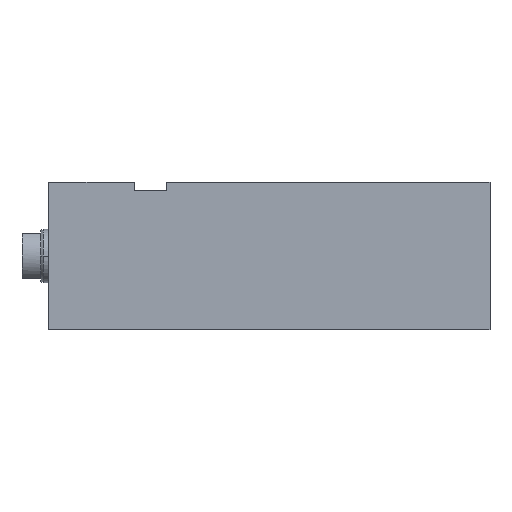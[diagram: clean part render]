
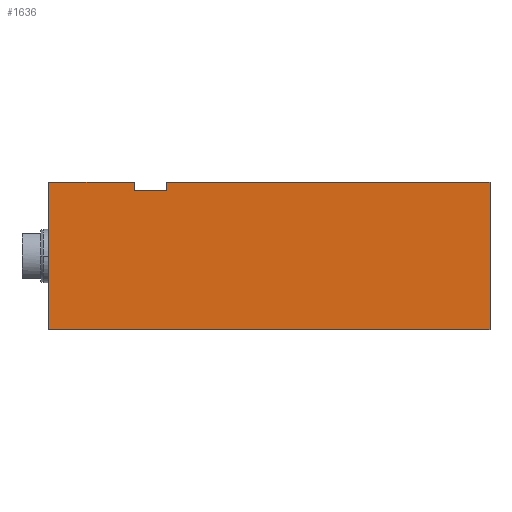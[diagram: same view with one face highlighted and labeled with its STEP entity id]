
A CAD part, left-side view. The second image highlights one B-rep face of the part: STEP entity #1636.
In plain terms, the highlighted planar face has unit normal (-1, 0, 0).
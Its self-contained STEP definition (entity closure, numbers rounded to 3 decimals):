
#4 = CARTESIAN_POINT ( 'NONE',  ( -37.5, 121., 27.5 ) ) ;
#313 = CARTESIAN_POINT ( 'NONE',  ( -37.5, 0., 27.5 ) ) ;
#333 = ORIENTED_EDGE ( 'NONE', *, *, #2207, .F. ) ;
#360 = VECTOR ( 'NONE', #1416, 1000. ) ;
#487 = CARTESIAN_POINT ( 'NONE',  ( -37.5, 0., -27.5 ) ) ;
#507 = FACE_OUTER_BOUND ( 'NONE', #2636, .T. ) ;
#540 = VECTOR ( 'NONE', #2748, 1000. ) ;
#556 = VERTEX_POINT ( 'NONE', #4 ) ;
#635 = CARTESIAN_POINT ( 'NONE',  ( -37.5, 165., -27.5 ) ) ;
#773 = DIRECTION ( 'NONE',  ( 0., 0., 1. ) ) ;
#786 = EDGE_CURVE ( 'NONE', #1348, #1600, #2163, .T. ) ;
#820 = CARTESIAN_POINT ( 'NONE',  ( -37.5, 0., -27.5 ) ) ;
#867 = LINE ( 'NONE', #1646, #2881 ) ;
#999 = CARTESIAN_POINT ( 'NONE',  ( -37.5, 133., 24.5 ) ) ;
#1029 = LINE ( 'NONE', #2909, #360 ) ;
#1092 = CARTESIAN_POINT ( 'NONE',  ( -37.5, 121., 24.5 ) ) ;
#1103 = ORIENTED_EDGE ( 'NONE', *, *, #1607, .F. ) ;
#1135 = EDGE_CURVE ( 'NONE', #1271, #556, #2012, .T. ) ;
#1150 = VERTEX_POINT ( 'NONE', #313 ) ;
#1169 = ORIENTED_EDGE ( 'NONE', *, *, #2211, .T. ) ;
#1250 = VERTEX_POINT ( 'NONE', #635 ) ;
#1271 = VERTEX_POINT ( 'NONE', #1754 ) ;
#1275 = ORIENTED_EDGE ( 'NONE', *, *, #1135, .F. ) ;
#1290 = ORIENTED_EDGE ( 'NONE', *, *, #2891, .T. ) ;
#1297 = VERTEX_POINT ( 'NONE', #820 ) ;
#1348 = VERTEX_POINT ( 'NONE', #999 ) ;
#1416 = DIRECTION ( 'NONE',  ( 0., -1., 0. ) ) ;
#1438 = DIRECTION ( 'NONE',  ( 0., 0., 1. ) ) ;
#1468 = VECTOR ( 'NONE', #1514, 1000. ) ;
#1514 = DIRECTION ( 'NONE',  ( 0., -1., 0. ) ) ;
#1527 = CARTESIAN_POINT ( 'NONE',  ( -37.5, 133., 24.5 ) ) ;
#1544 = CARTESIAN_POINT ( 'NONE',  ( -37.5, 65., -27.5 ) ) ;
#1600 = VERTEX_POINT ( 'NONE', #1801 ) ;
#1607 = EDGE_CURVE ( 'NONE', #556, #1150, #2672, .T. ) ;
#1636 = ADVANCED_FACE ( 'NONE', ( #507 ), #1885, .F. ) ;
#1639 = EDGE_CURVE ( 'NONE', #1250, #1772, #2439, .T. ) ;
#1646 = CARTESIAN_POINT ( 'NONE',  ( -37.5, 133., 24.5 ) ) ;
#1695 = DIRECTION ( 'NONE',  ( 0., -1., 0. ) ) ;
#1704 = LINE ( 'NONE', #1544, #1468 ) ;
#1749 = CARTESIAN_POINT ( 'NONE',  ( -37.5, 65., -27.5 ) ) ;
#1754 = CARTESIAN_POINT ( 'NONE',  ( -37.5, 121., 24.5 ) ) ;
#1772 = VERTEX_POINT ( 'NONE', #2464 ) ;
#1801 = CARTESIAN_POINT ( 'NONE',  ( -37.5, 133., 27.5 ) ) ;
#1850 = CARTESIAN_POINT ( 'NONE',  ( -37.5, 65., 27.5 ) ) ;
#1855 = VECTOR ( 'NONE', #773, 1000. ) ;
#1862 = DIRECTION ( 'NONE',  ( 0., -1., 0. ) ) ;
#1885 = PLANE ( 'NONE',  #2978 ) ;
#1956 = DIRECTION ( 'NONE',  ( 1., 0., 0. ) ) ;
#1963 = DIRECTION ( 'NONE',  ( 0., 0., -1. ) ) ;
#1992 = CARTESIAN_POINT ( 'NONE',  ( -37.5, 165., -27.5 ) ) ;
#2001 = DIRECTION ( 'NONE',  ( 0., 0., 1. ) ) ;
#2012 = LINE ( 'NONE', #1092, #1855 ) ;
#2163 = LINE ( 'NONE', #1527, #2983 ) ;
#2207 = EDGE_CURVE ( 'NONE', #1348, #1271, #867, .T. ) ;
#2211 = EDGE_CURVE ( 'NONE', #1250, #1297, #1704, .T. ) ;
#2213 = ORIENTED_EDGE ( 'NONE', *, *, #786, .T. ) ;
#2439 = LINE ( 'NONE', #1992, #2518 ) ;
#2464 = CARTESIAN_POINT ( 'NONE',  ( -37.5, 165., 27.5 ) ) ;
#2518 = VECTOR ( 'NONE', #2001, 1000. ) ;
#2551 = LINE ( 'NONE', #487, #540 ) ;
#2636 = EDGE_LOOP ( 'NONE', ( #1103, #1275, #333, #2213, #2914, #3119, #1169, #1290 ) ) ;
#2640 = EDGE_CURVE ( 'NONE', #1772, #1600, #1029, .T. ) ;
#2672 = LINE ( 'NONE', #1850, #3183 ) ;
#2748 = DIRECTION ( 'NONE',  ( 0., 0., 1. ) ) ;
#2881 = VECTOR ( 'NONE', #1695, 1000. ) ;
#2891 = EDGE_CURVE ( 'NONE', #1297, #1150, #2551, .T. ) ;
#2909 = CARTESIAN_POINT ( 'NONE',  ( -37.5, 65., 27.5 ) ) ;
#2914 = ORIENTED_EDGE ( 'NONE', *, *, #2640, .F. ) ;
#2978 = AXIS2_PLACEMENT_3D ( 'NONE', #1749, #1956, #1963 ) ;
#2983 = VECTOR ( 'NONE', #1438, 1000. ) ;
#3119 = ORIENTED_EDGE ( 'NONE', *, *, #1639, .F. ) ;
#3183 = VECTOR ( 'NONE', #1862, 1000. ) ;
